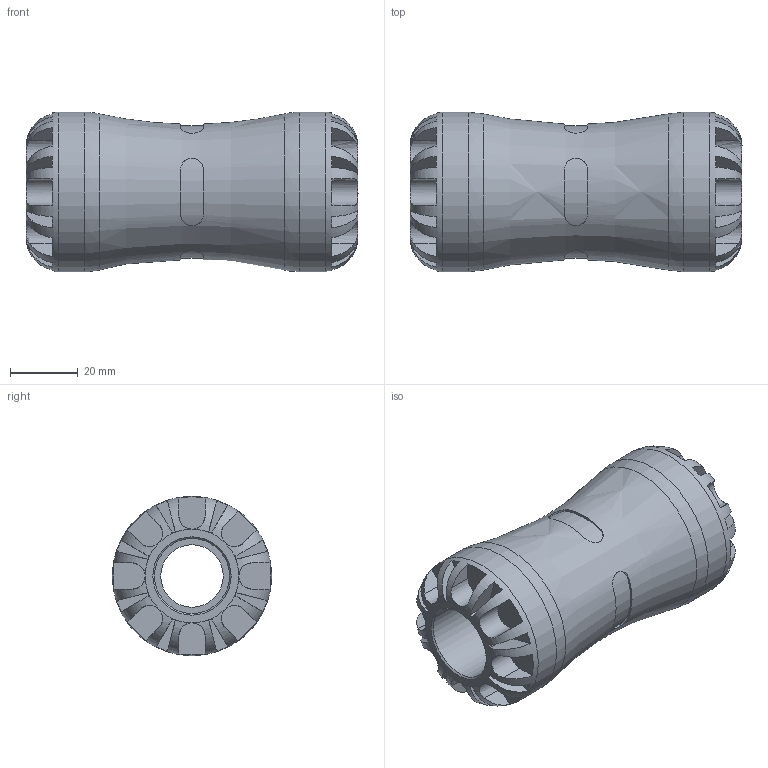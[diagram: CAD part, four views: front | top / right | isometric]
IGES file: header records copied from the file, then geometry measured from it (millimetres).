
Global section: file name: 1001Z0007.ipt; native system: Autodesk Inventor 2019; preprocessor: unknown; author: KIM; date: 20210902.120219; units: inch
Bounding box: 97.79 x 46.99 x 46.99 mm (x, y, z)
Volume: 99722.7 mm3; surface area: 25541.7 mm2
Topology: 1 solids, 1 shells, 164 faces, 427 edges, 270 vertices
Faces by surface type: plane 108, revolution 34, cylinder 22
Full cylindrical faces by diameter (mm): 46.99 x2
